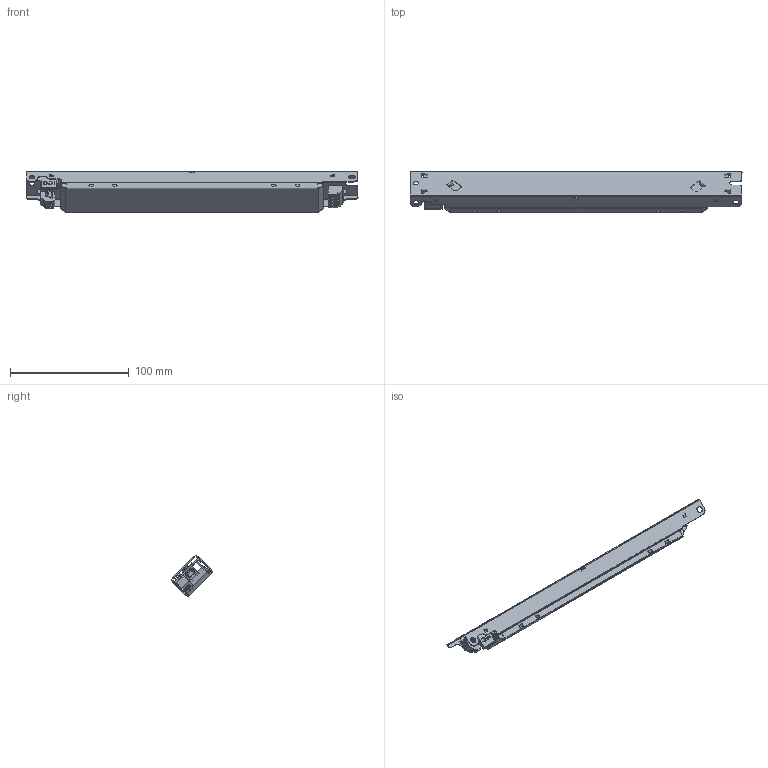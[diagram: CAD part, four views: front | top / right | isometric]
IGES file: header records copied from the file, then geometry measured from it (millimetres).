
Start section: SolidWorks IGES file using analytic representation for surfaces
Global section: file name: c:\users\vuorinen_kari\OneDrive - Helvar Oy Ab\Desktop\prj\LL50SE-FD\LL50SE-FD.IGS; native system: SolidWorks 2014; preprocessor: SolidWorks 2014; author: Vuorinen_Kari; date: 200316.102524; units: millimetre
Bounding box: 280 x 35.32 x 35.22 mm (x, y, z)
Surface area: 73242.6 mm2 (no closed solid volume)
Topology: 0 solids, 0 shells, 1341 faces, 9479 edges, 9473 vertices
Faces by surface type: bspline 967, revolution 374
